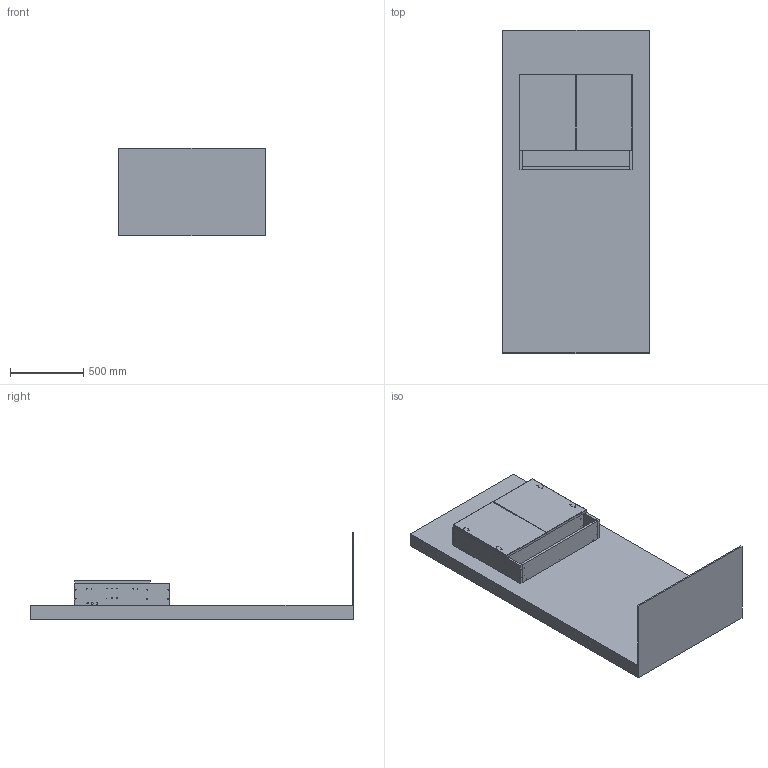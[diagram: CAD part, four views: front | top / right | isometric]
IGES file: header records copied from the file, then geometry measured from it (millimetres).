
Global section: file name: Compacta Kapaklı Üst Dolap 80cm,2; native system: 2HAutodesk Inventor 2024; preprocessor: unknown; author: pc11; date: 20260624.155007; units: millimetre
Bounding box: 1000 x 2210 x 600 mm (x, y, z)
Volume: 247962962.6 mm3; surface area: 10295497.7 mm2
Topology: 57 solids, 65 shells, 4178 faces, 11160 edges, 7143 vertices
Faces by surface type: bspline 4178
